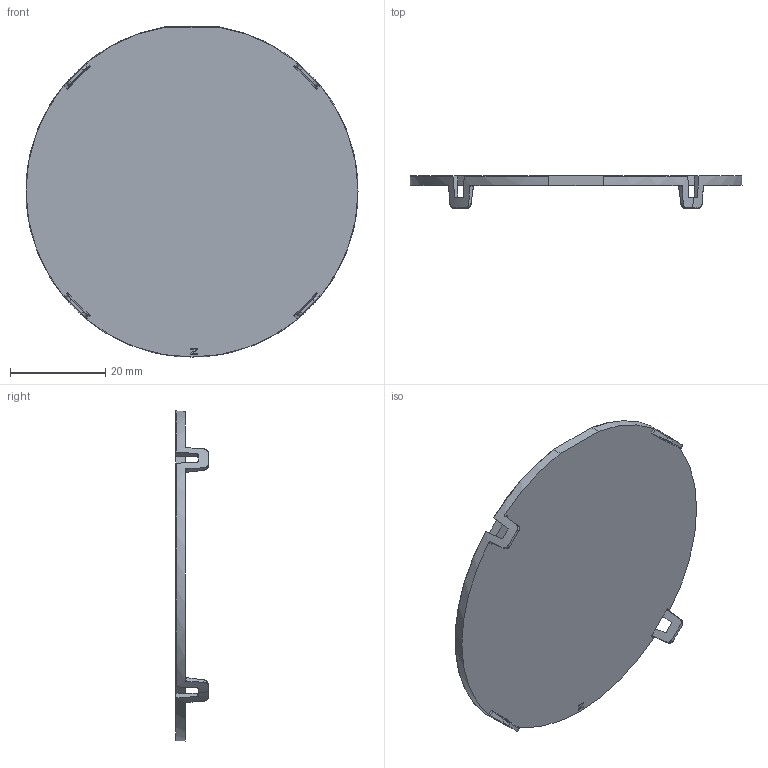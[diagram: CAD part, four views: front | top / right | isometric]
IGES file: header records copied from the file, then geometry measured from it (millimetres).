
Start section: 3D InterOp IGES (Version 22 0 2), Spatial Corp. Copyright (c) 1999-2007.
Global section: file name: LLD05N1.igs; native system: Spatial Corp.; preprocessor: 3D InterOp GENERIC/IGES 3.0; author: Noname; organization: Noname; date: 20120918.120709; units: millimetre
Bounding box: 69.82 x 6.76 x 69.41 mm (x, y, z)
Surface area: 8313.9 mm2 (no closed solid volume)
Topology: 0 solids, 0 shells, 83 faces, 580 edges, 580 vertices
Faces by surface type: extrusion 49, revolution 34
